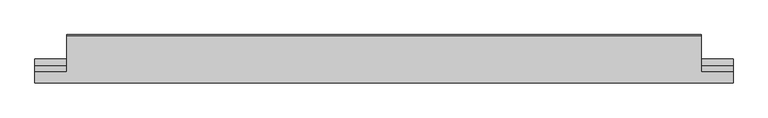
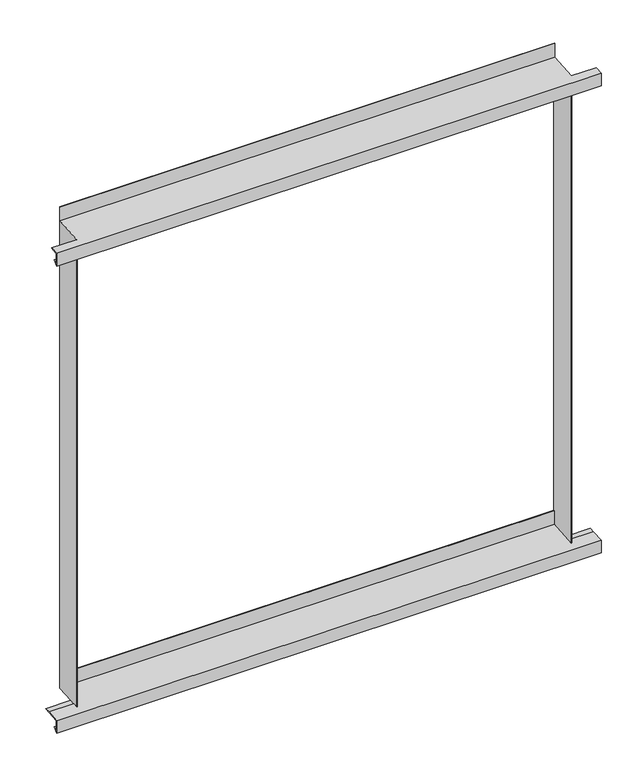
"""IFC4 building model written with IfcOpenShell, lengths in millimetres: plate geometry, ATELIERS 3S_EPURE CDB_Entourage de baie : ATELIERS 3S_EPURE CDB_Entourage de baie."""

from ifc_helpers import new_model, si_unit, origin, place, context, project, spatial, faceted_brep, source, transform, mapped, element, save


def plate_2ae588f2(model_context):
    return source(origin(), model_context, "Body", "Brep", [
        faceted_brep([(549.362758, -75.0, -3.2370806), (549.362758, -38.0, 0.0), (549.362758, -49.4737132, 0.0), (549.362758, -76.0, -2.3207494), (549.362758, -76.0, -29.0836688), (549.362758, -67.5147186, -20.5983875), (549.362758, -68.22457, -19.8885361), (549.362758, -75.0, -26.663966), (549.362758, -75.0, 993.4383502), (549.362758, -59.0, 994.8381689), (549.362758, -59.0, 995.8419887), (549.362758, -76.0, 994.3546814), (549.362758, -76.0, 967.591762), (549.362758, -67.5147186, 976.0770433), (549.362758, -68.22457, 976.7868947), (549.362758, -75.0, 970.0114648), (-549.362758, -76.0, -2.3207494), (-549.362758, -49.4737132, 0.0), (-549.362758, -38.0, 0.0), (-549.362758, -75.0, -3.2370806), (-549.362758, -75.0, -26.663966), (-549.362758, -68.22457, -19.8885361), (-549.362758, -67.5147186, -20.5983875), (-549.362758, -76.0, -29.0836688), (-549.362758, -76.0, 994.3546814), (-549.362758, -59.0, 995.8419887), (-549.362758, -59.0, 994.8381689), (-549.362758, -75.0, 993.4383502), (-549.362758, -75.0, 970.0114648), (-549.362758, -68.22457, 976.7868947), (-549.362758, -67.5147186, 976.0770433), (-549.362758, -76.0, 967.591762), (498.362758, -1.0, 4.2409004), (498.362758, -1.0, 33.3245692), (-498.362758, -1.0, 33.3245692), (-498.362758, -1.0, 4.2409004), (-498.362758, 0.0, 33.3245692), (498.362758, 0.0, 33.3245692), (499.362758, -59.0, 995.8419887), (499.362758, -1.0, 1000.9163312), (-499.362758, -1.0, 1000.9163312), (-499.362758, -59.0, 995.8419887), (499.362758, -1.0, 1030.0), (-499.362758, -1.0, 1030.0), (499.362758, 0.0, 1030.0), (-499.362758, 0.0, 1030.0), (-499.362758, -59.0, 994.8381689), (-499.362758, -60.0, 994.7506802), (-498.362758, -60.0, 994.7506802), (-498.362758, 0.0, 1000.0), (498.362758, 0.0, 1000.0), (498.362758, -60.0, 994.7506802), (499.362758, -60.0, 994.7506802), (499.362758, -59.0, 994.8381689), (499.362758, -49.4737132, 0.0), (499.362758, -60.0, -0.9209308), (498.362758, -60.0, -0.9209308), (-498.362758, -60.0, -0.9209308), (-499.362758, -60.0, -0.9209308), (-499.362758, -49.4737132, 0.0), (-499.362758, 0.0, 3.3245692), (-499.362758, -38.0, 0.0), (499.362758, 0.0, 3.3245692), (499.362758, -38.0, 0.0)], [[[0, 1, 2, 3, 4, 5, 6, 7]], [[8, 9, 10, 11, 12, 13, 14, 15]], [[16, 17, 18, 19, 20, 21, 22, 23]], [[24, 25, 26, 27, 28, 29, 30, 31]], [[7, 20, 19, 0]], [[6, 21, 20, 7]], [[5, 22, 21, 6]], [[4, 23, 22, 5]], [[3, 16, 23, 4]], [[32, 33, 34, 35]], [[36, 34, 33, 37]], [[15, 28, 27, 8]], [[14, 29, 28, 15]], [[13, 30, 29, 14]], [[12, 31, 30, 13]], [[11, 24, 31, 12]], [[11, 10, 38, 39, 40, 41, 25, 24]], [[39, 42, 43, 40]], [[42, 44, 45, 43]], [[27, 26, 46, 47, 48, 49, 50, 51, 52, 53, 9, 8]], [[3, 2, 54, 55, 56, 32, 35, 57, 58, 59, 17, 16]], [[48, 47, 58, 57]], [[47, 46, 41, 40, 43, 45, 60, 61, 59, 58]], [[45, 44, 62, 60], [49, 36, 37, 50]], [[57, 35, 34, 36, 49, 48]], [[52, 51, 56, 55]], [[51, 50, 37, 33, 32, 56]], [[55, 54, 63, 62, 44, 42, 39, 38, 53, 52]], [[62, 63, 1, 0, 19, 18, 61, 60]], [[1, 63, 54, 2]], [[17, 59, 61, 18]], [[38, 10, 9, 53]], [[46, 26, 25, 41]]]),
    ])


if __name__ == "__main__":
    model = new_model("IFC4")
    model_context = context("Model", 3, world=origin())
    ifc_project = project(units=[si_unit("LENGTHUNIT", "METRE", prefix="MILLI")], contexts=[model_context])
    site = spatial("IfcSite", under=ifc_project)
    building = spatial("IfcBuilding", under=site)
    placement = place(None, origin())
    plate_shape = plate_2ae588f2(model_context)
    element("IfcPlate", 1, ObjectType="ATELIERS 3S_EPURE CDB_Entourage de baie : ATELIERS 3S_EPURE CDB_Entourage de baie", at=placement, inside=building, context=model_context, shape_type="MappedRepresentation", body=[
        mapped(plate_shape, transform((0.0, 0.0, 0.0), x_axis=(1.0, 0.0, 0.0), y_axis=(0.0, 1.0, 0.0), z_axis=(0.0, 0.0, 1.0))),
    ])
    save(model, "model.ifc")
